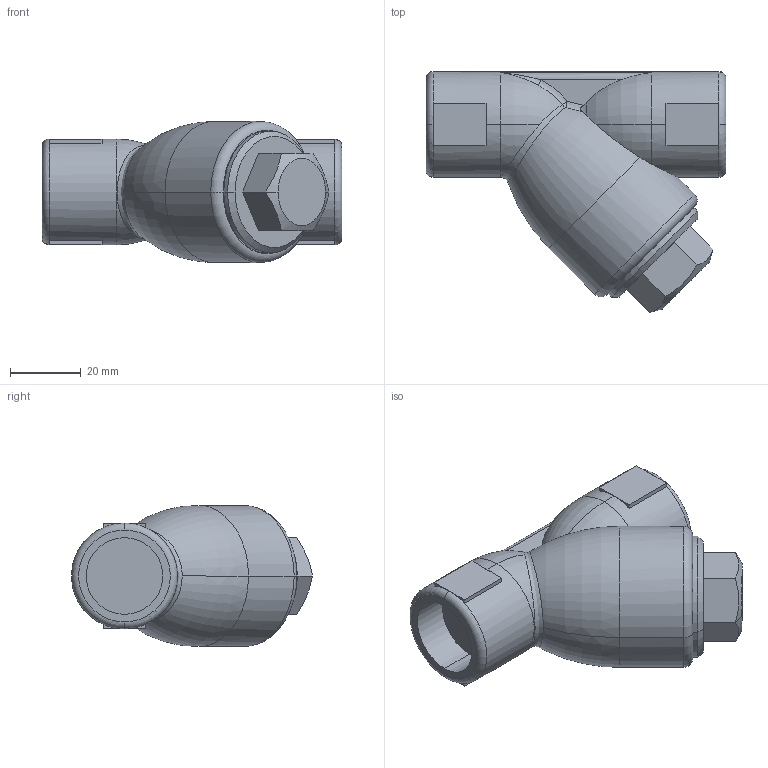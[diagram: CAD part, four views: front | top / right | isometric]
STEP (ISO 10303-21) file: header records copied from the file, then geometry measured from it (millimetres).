
FILE_DESCRIPTION (( 'STEP AP203' ), '1' );
FILE_NAME ('SY-17 15A.STEP', '2025-10-02T00:46:40', ( '' ), ( '' ), 'SwSTEP 2.0', 'SolidWorks 2024', '' );
FILE_SCHEMA (( 'CONFIG_CONTROL_DESIGN' ));
Length unit declared in the file: millimetre
Products named in the file (1): SY-17 15A
Bounding box: 85 x 68.28 x 40 mm (x, y, z)
Volume: 95100.3 mm3; surface area: 15800.9 mm2
Topology: 1 solids, 1 shells, 86 faces, 197 edges, 115 vertices
Faces by surface type: plane 43, torus 17, cylinder 13, bspline 7, cone 4, sphere 2
Entity records: 3266 total; most frequent: CARTESIAN_POINT 1323, ORIENTED_EDGE 390, DIRECTION 388, EDGE_CURVE 195, AXIS2_PLACEMENT_3D 154, VERTEX_POINT 115, EDGE_LOOP 90, FACE_OUTER_BOUND 86
